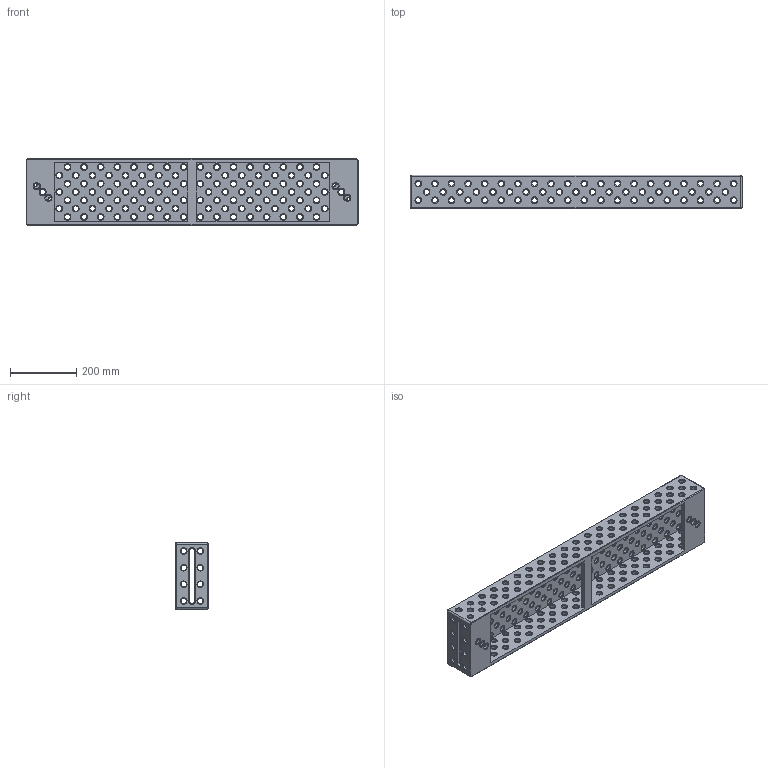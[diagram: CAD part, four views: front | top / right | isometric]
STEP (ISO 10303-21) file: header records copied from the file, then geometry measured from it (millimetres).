
FILE_DESCRIPTION (( 'STEP AP203' ), '1' );
FILE_NAME ('160370.1_1000x200x100.step', '2014-08-11T15:31:15', ( 'User' ), ( '' ), 'SwSTEP 2.0', 'SolidWorks 2014', '' );
FILE_SCHEMA (( 'CONFIG_CONTROL_DESIGN' ));
Length unit declared in the file: millimetre
Products named in the file (1): 160370.1_1000x200x100
Bounding box: 1000 x 100 x 200 mm (x, y, z)
Volume: 4469894.4 mm3; surface area: 925862.8 mm2
Topology: 1 solids, 1 shells, 1728 faces, 4038 edges, 2312 vertices
Faces by surface type: cone 578, cylinder 570, torus 550, plane 30
Entity records: 50733 total; most frequent: DIRECTION 10310, CARTESIAN_POINT 8079, ORIENTED_EDGE 8076, AXIS2_PLACEMENT_3D 4543, EDGE_CURVE 4038, CIRCLE 2814, VERTEX_POINT 2312, EDGE_LOOP 2288
